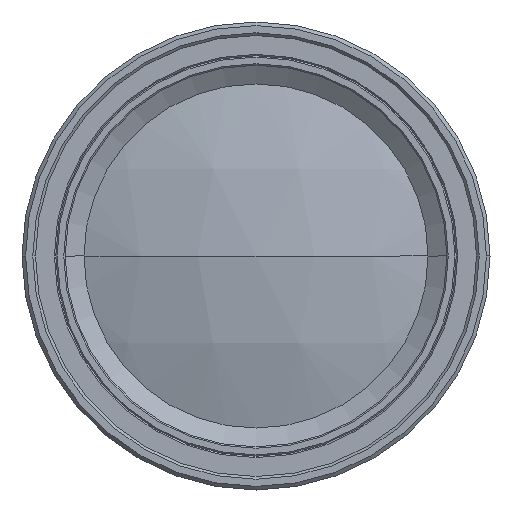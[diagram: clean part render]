
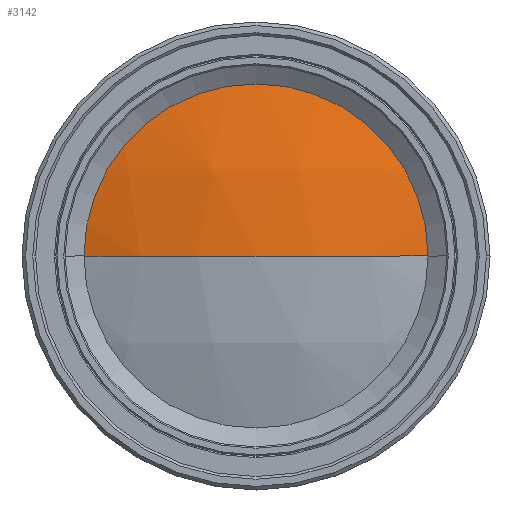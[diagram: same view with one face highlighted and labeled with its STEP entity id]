
A CAD part, left-side view. The second image highlights one B-rep face of the part: STEP entity #3142.
In plain terms, the highlighted spherical face has radius 76.8 mm.
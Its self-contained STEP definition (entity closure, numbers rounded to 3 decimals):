
#32 = DIRECTION ( 'NONE',  ( 0., -1., 0. ) ) ;
#327 = DIRECTION ( 'NONE',  ( 0., 0., -1. ) ) ;
#408 = CARTESIAN_POINT ( 'NONE',  ( -25.415, 0., 0. ) ) ;
#680 = EDGE_CURVE ( 'NONE', #3131, #1535, #2848, .T. ) ;
#745 = DIRECTION ( 'NONE',  ( 1., 0., 0. ) ) ;
#873 = VERTEX_POINT ( 'NONE', #2192 ) ;
#888 = CIRCLE ( 'NONE', #1431, 76.8 ) ;
#1431 = AXIS2_PLACEMENT_3D ( 'NONE', #2262, #327, #1880 ) ;
#1501 = CARTESIAN_POINT ( 'NONE',  ( -98.402, -23.9, 0. ) ) ;
#1508 = CARTESIAN_POINT ( 'NONE',  ( -98.402, 0., 0. ) ) ;
#1516 = CIRCLE ( 'NONE', #3787, 76.8 ) ;
#1535 = VERTEX_POINT ( 'NONE', #1501 ) ;
#1572 = ORIENTED_EDGE ( 'NONE', *, *, #680, .F. ) ;
#1607 = ORIENTED_EDGE ( 'NONE', *, *, #3310, .F. ) ;
#1880 = DIRECTION ( 'NONE',  ( -1., 0., 0. ) ) ;
#1923 = AXIS2_PLACEMENT_3D ( 'NONE', #4009, #2060, #3246 ) ;
#1977 = EDGE_LOOP ( 'NONE', ( #1607, #4607, #1572 ) ) ;
#2060 = DIRECTION ( 'NONE',  ( 0., 0., 1. ) ) ;
#2192 = CARTESIAN_POINT ( 'NONE',  ( -102.215, 0., 0. ) ) ;
#2262 = CARTESIAN_POINT ( 'NONE',  ( -25.415, 0., 0. ) ) ;
#2418 = CARTESIAN_POINT ( 'NONE',  ( -98.402, 23.9, 0. ) ) ;
#2634 = AXIS2_PLACEMENT_3D ( 'NONE', #1508, #745, #3875 ) ;
#2653 = SPHERICAL_SURFACE ( 'NONE', #1923, 76.8 ) ;
#2848 = CIRCLE ( 'NONE', #2634, 23.9 ) ;
#3006 = EDGE_CURVE ( 'NONE', #873, #1535, #1516, .T. ) ;
#3131 = VERTEX_POINT ( 'NONE', #2418 ) ;
#3142 = ADVANCED_FACE ( 'NONE', ( #4590 ), #2653, .T. ) ;
#3246 = DIRECTION ( 'NONE',  ( 0., 1., 0. ) ) ;
#3310 = EDGE_CURVE ( 'NONE', #873, #3131, #888, .T. ) ;
#3787 = AXIS2_PLACEMENT_3D ( 'NONE', #408, #4695, #32 ) ;
#3875 = DIRECTION ( 'NONE',  ( 0., 1., 0. ) ) ;
#4009 = CARTESIAN_POINT ( 'NONE',  ( -25.415, 0., 0. ) ) ;
#4590 = FACE_OUTER_BOUND ( 'NONE', #1977, .T. ) ;
#4607 = ORIENTED_EDGE ( 'NONE', *, *, #3006, .T. ) ;
#4695 = DIRECTION ( 'NONE',  ( 0., 0., 1. ) ) ;
